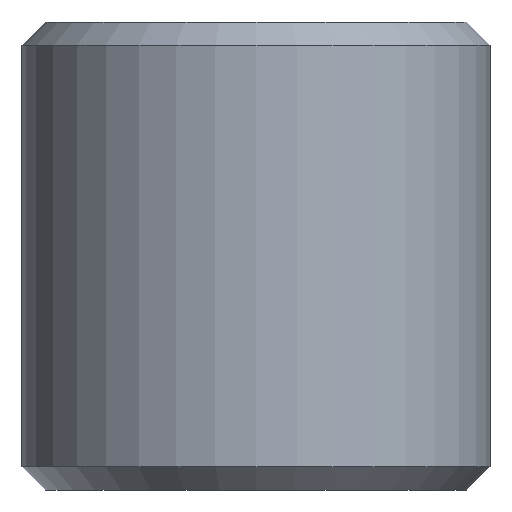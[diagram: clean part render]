
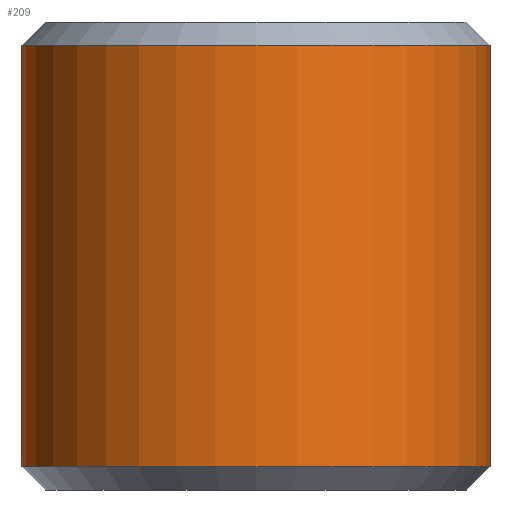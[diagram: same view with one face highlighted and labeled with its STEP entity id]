
A CAD part, left-side view. The second image highlights one B-rep face of the part: STEP entity #209.
In plain terms, the highlighted cylindrical face has radius 2.5 mm (diameter 5 mm), a partial arc.
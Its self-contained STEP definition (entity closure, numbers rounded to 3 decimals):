
#15=CYLINDRICAL_SURFACE('',#250,2.5);
#20=CIRCLE('',#248,2.5);
#21=CIRCLE('',#251,2.5);
#33=FACE_OUTER_BOUND('',#47,.T.);
#47=EDGE_LOOP('',(#157,#158,#159,#160));
#65=LINE('',#357,#85);
#66=LINE('',#360,#86);
#85=VECTOR('',#292,10.);
#86=VECTOR('',#295,10.);
#99=VERTEX_POINT('',#335);
#103=VERTEX_POINT('',#347);
#105=VERTEX_POINT('',#356);
#106=VERTEX_POINT('',#358);
#122=EDGE_CURVE('',#99,#103,#20,.T.);
#125=EDGE_CURVE('',#105,#99,#65,.T.);
#126=EDGE_CURVE('',#106,#105,#21,.T.);
#127=EDGE_CURVE('',#103,#106,#66,.T.);
#157=ORIENTED_EDGE('',*,*,#122,.F.);
#158=ORIENTED_EDGE('',*,*,#125,.F.);
#159=ORIENTED_EDGE('',*,*,#126,.F.);
#160=ORIENTED_EDGE('',*,*,#127,.F.);
#209=ADVANCED_FACE('',(#33),#15,.T.);
#248=AXIS2_PLACEMENT_3D('',#351,#284,#285);
#250=AXIS2_PLACEMENT_3D('',#355,#290,#291);
#251=AXIS2_PLACEMENT_3D('',#359,#293,#294);
#284=DIRECTION('center_axis',(0.,0.,-1.));
#285=DIRECTION('ref_axis',(0.,-1.,0.));
#290=DIRECTION('center_axis',(0.,0.,-1.));
#291=DIRECTION('ref_axis',(0.,-1.,0.));
#292=DIRECTION('',(0.,0.,-1.));
#293=DIRECTION('center_axis',(0.,0.,1.));
#294=DIRECTION('ref_axis',(0.,-1.,0.));
#295=DIRECTION('',(0.,0.,1.));
#335=CARTESIAN_POINT('',(2.5,-2.5,-2.75));
#347=CARTESIAN_POINT('',(2.5,2.5,-2.75));
#351=CARTESIAN_POINT('Origin',(2.5,0.,-2.75));
#355=CARTESIAN_POINT('Origin',(2.5,0.,0.));
#356=CARTESIAN_POINT('',(2.5,-2.5,1.75));
#357=CARTESIAN_POINT('',(2.5,-2.5,0.));
#358=CARTESIAN_POINT('',(2.5,2.5,1.75));
#359=CARTESIAN_POINT('Origin',(2.5,0.,1.75));
#360=CARTESIAN_POINT('',(2.5,2.5,0.));
